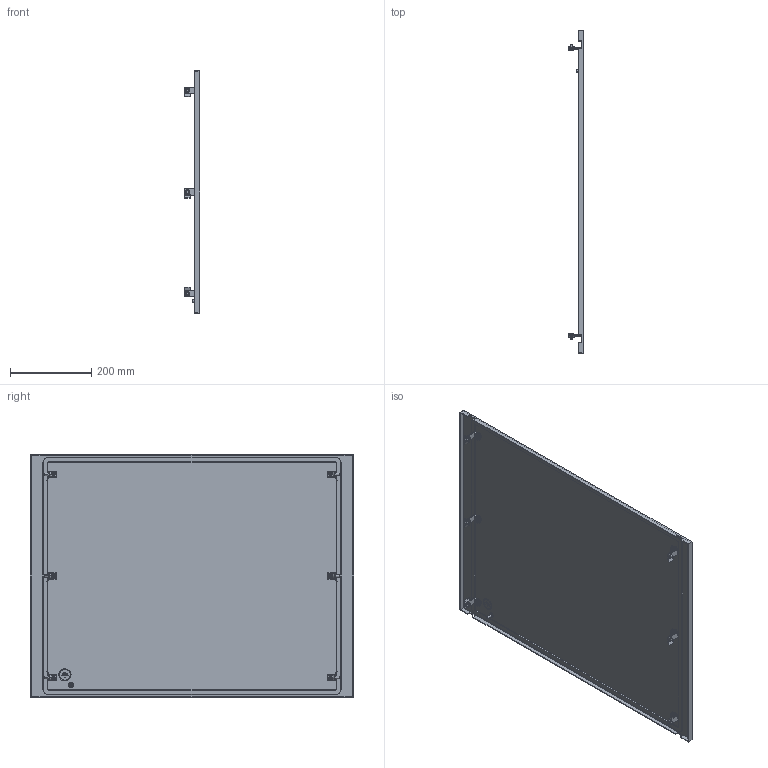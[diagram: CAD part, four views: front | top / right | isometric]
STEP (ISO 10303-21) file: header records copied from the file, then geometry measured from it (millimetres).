
FILE_DESCRIPTION (( 'STEP AP214' ), '1' );
FILE_NAME ('FO-00-PWSB-060-080 Ôàëüø-ïàíåëü âíåøíÿÿ ãëóõàÿ 600õ800 ìì.STEP', '2025-08-25T07:59:42', ( '' ), ( '' ), 'SwSTEP 2.0', 'SolidWorks 2023', '' );
FILE_SCHEMA (( 'AUTOMOTIVE_DESIGN' ));
Length unit declared in the file: millimetre
Products named in the file (1): FO-00-PWSB-060-080 Фальш-панель внешняя глухая 600х800 мм
Bounding box: 38.5 x 795 x 596 mm (x, y, z)
Volume: 1113468.7 mm3; surface area: 1044382.4 mm2
Topology: 1 solids, 14 shells, 1224 faces, 3027 edges, 1857 vertices
Faces by surface type: plane 772, cylinder 288, cone 132, torus 32
Entity records: 36590 total; most frequent: CARTESIAN_POINT 7079, DIRECTION 6299, ORIENTED_EDGE 6050, EDGE_CURVE 3025, AXIS2_PLACEMENT_3D 2145, VECTOR 2009, LINE 2009, VERTEX_POINT 1857
